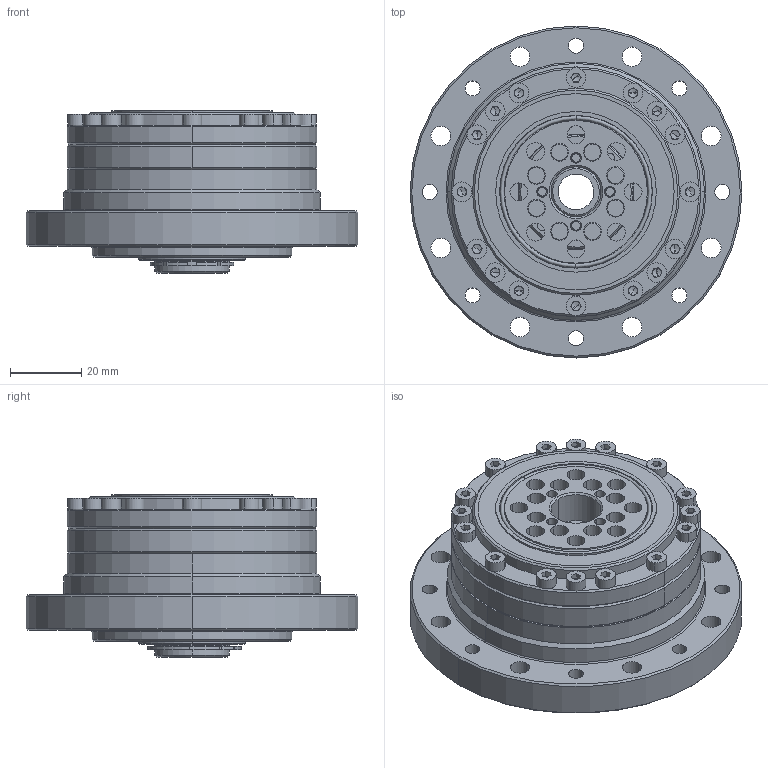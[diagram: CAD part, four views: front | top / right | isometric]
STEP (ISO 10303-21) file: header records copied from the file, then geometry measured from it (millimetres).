
FILE_DESCRIPTION (( 'STEP AP203' ), '1' );
FILE_NAME ('FCG-20-XXX-AO.STEP', '2023-02-22T09:09:37', ( '微软用户' ), ( '微软中国' ), 'SwSTEP 2.0', 'SolidWorks 2016', '' );
FILE_SCHEMA (( 'CONFIG_CONTROL_DESIGN' ));
Length unit declared in the file: millimetre
Products named in the file (1): FCG-20-XXX-AO
Bounding box: 93 x 93 x 45.5 mm (x, y, z)
Volume: 132254.1 mm3; surface area: 97629.6 mm2
Topology: 69 solids, 69 shells, 1533 faces, 3707 edges, 2285 vertices
Faces by surface type: cylinder 589, plane 558, cone 226, torus 82, sphere 46, bspline 32
Entity records: 46839 total; most frequent: CARTESIAN_POINT 10821, DIRECTION 7930, ORIENTED_EDGE 7072, EDGE_CURVE 3536, AXIS2_PLACEMENT_3D 3089, VERTEX_POINT 2216, EDGE_LOOP 1826, LINE 1752
